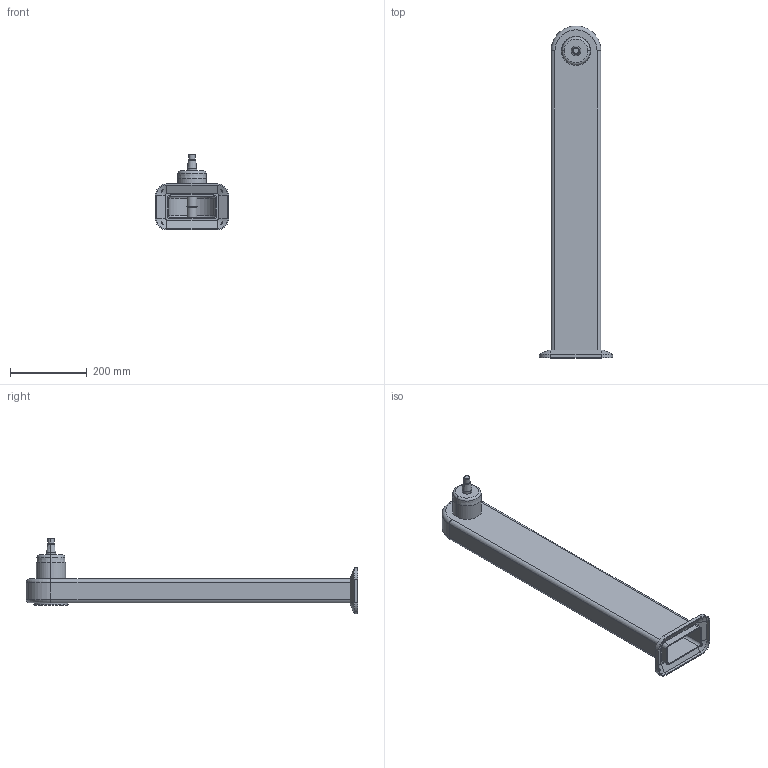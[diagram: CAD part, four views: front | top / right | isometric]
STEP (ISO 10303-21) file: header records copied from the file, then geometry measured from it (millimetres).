
FILE_DESCRIPTION (( 'STEP AP214' ), '1' );
FILE_NAME ('WP710_H800_+00.STEP', '2014-06-27T07:57:23', ( '' ), ( '' ), 'SwSTEP 2.0', 'SolidWorks 2014', '' );
FILE_SCHEMA (( 'AUTOMOTIVE_DESIGN' ));
Length unit declared in the file: millimetre
Products named in the file (1): WP710_H800_+00
Bounding box: 191 x 865 x 198 mm (x, y, z)
Volume: 1344198.8 mm3; surface area: 681294.5 mm2
Topology: 1 solids, 1 shells, 110 faces, 244 edges, 148 vertices
Faces by surface type: cylinder 42, plane 40, cone 20, torus 8
Entity records: 3157 total; most frequent: CARTESIAN_POINT 608, DIRECTION 570, ORIENTED_EDGE 488, EDGE_CURVE 244, AXIS2_PLACEMENT_3D 221, VERTEX_POINT 148, VECTOR 128, LINE 128
